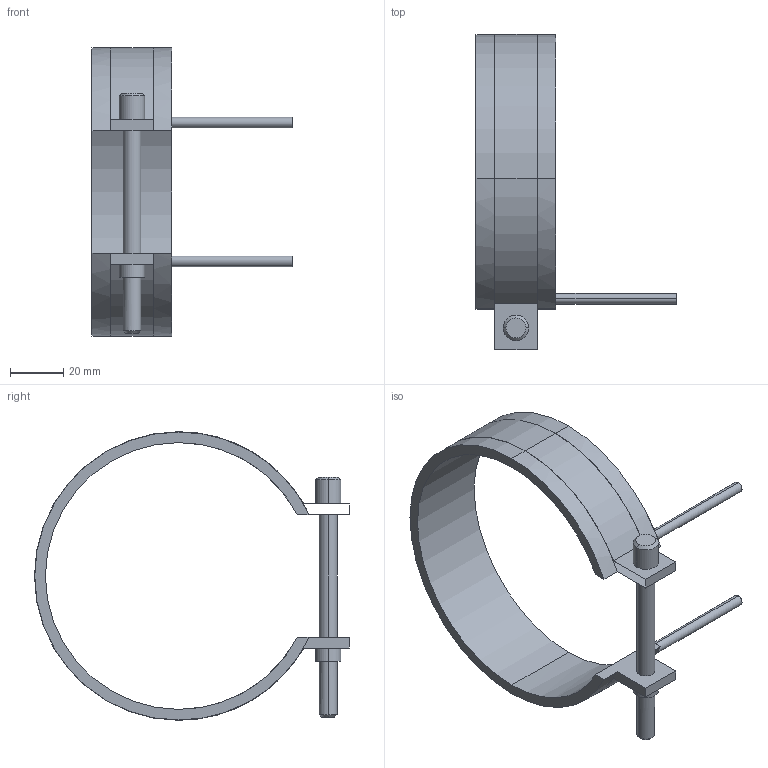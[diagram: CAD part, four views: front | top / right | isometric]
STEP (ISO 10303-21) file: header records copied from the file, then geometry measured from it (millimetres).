
FILE_DESCRIPTION(('CATIA V5 STEP Exchange'),'2;1');
FILE_NAME('C:\Users\Utente\Desktop\IO LAVORO\3D X SITO CF\X SITO\PLASTICA\RF2\14100030.stp','2021-04-03T08:55:45+00:00',('none'),('none'),'CATIA Version 5 Release 20 GA (IN-10)','CATIA V5 STEP AP203','none');
FILE_SCHEMA(('CONFIG_CONTROL_DESIGN'));
Length unit declared in the file: millimetre
Products named in the file (1): 14100030
Bounding box: 75 x 118.1 x 108.2 mm (x, y, z)
Volume: 40524.2 mm3; surface area: 23466.2 mm2
Topology: 1 solids, 1 shells, 45 faces, 116 edges, 76 vertices
Faces by surface type: cylinder 24, plane 17, cone 4
Entity records: 1400 total; most frequent: CARTESIAN_POINT 274, ORIENTED_EDGE 232, DIRECTION 196, EDGE_CURVE 116, AXIS2_PLACEMENT_3D 104, VERTEX_POINT 76, CIRCLE 62, VECTOR 52
